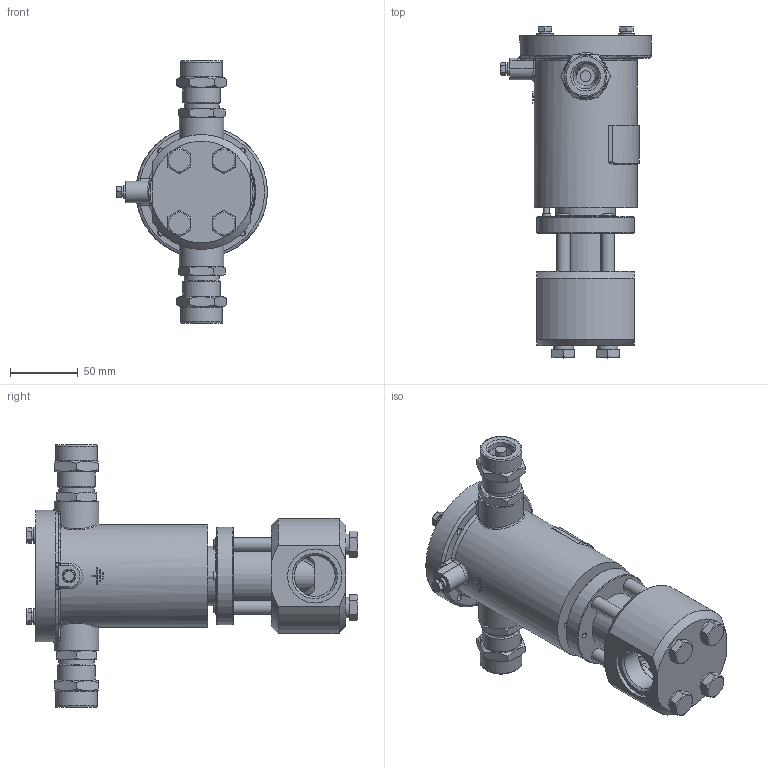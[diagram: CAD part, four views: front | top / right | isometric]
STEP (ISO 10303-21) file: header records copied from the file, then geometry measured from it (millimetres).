
FILE_DESCRIPTION(('STEP AP203'), '1');
FILE_NAME('ÑÅÍÑ-ÏÐ DN20PN250-G1-0.stp', '2018-10-01T10:04:34', ('Îðëîâ Å.Â.'), ('ÎÎÎ ÍÏÏ Ñåíñîð'), 'ASCON STEP Converter 1.3', 'Kompas 3D', '');
FILE_SCHEMA(('CONFIG_CONTROL_DESIGN','SUPPORT_RESOURCE_SCHEMA'));
Length unit declared in the file: millimetre
Products named in the file (1): 2
Bounding box: 111.2 x 245.1 x 194 mm (x, y, z)
Volume: 673451.7 mm3; surface area: 203056.9 mm2
Topology: 3 solids, 19 shells, 1795 faces, 4818 edges, 3153 vertices
Faces by surface type: cylinder 940, plane 664, cone 125, bspline 29, torus 21, extrusion 16
Full cylindrical faces by diameter (mm): 2.459 x4, 4 x8, 4.134 x1, 4.5 x2, 4.917 x4, 5 x3, 6 x9, 6.5 x6, 8 x4, 10 x10, 11 x4, 12 x4, 13 x2, 18.632 x2, 20 x4, 22 x2, 22.376 x2, 23.5 x2, 24 x2, 24.5 x2, 25 x2, 26 x4, 26.376 x2, 28 x2, 28.5 x1, 29 x2, 30 x1, 30.291 x2, 31 x2, 33 x2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
Entity records: 68506 total; most frequent: CARTESIAN_POINT 22282, DIRECTION 10028, ORIENTED_EDGE 9614, EDGE_CURVE 4807, AXIS2_PLACEMENT_3D 3831, VERTEX_POINT 3153, VECTOR 2366, LINE 2350
